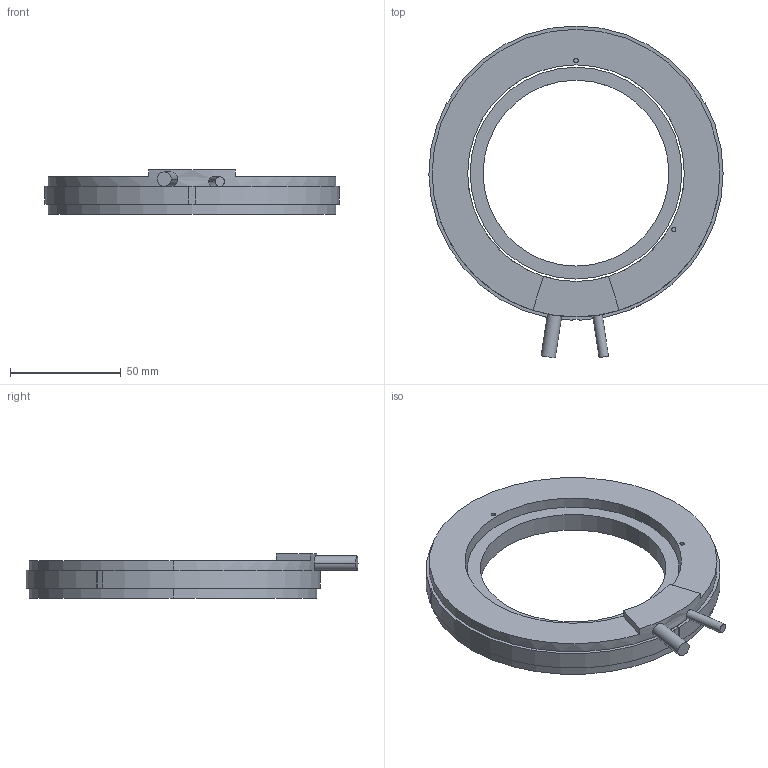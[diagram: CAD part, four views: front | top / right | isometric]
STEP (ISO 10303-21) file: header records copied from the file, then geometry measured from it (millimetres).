
FILE_DESCRIPTION (( 'STEP AP203' ), '1' );
FILE_NAME ('TM133-17 3D.STEP', '2024-01-12T02:50:05', ( '' ), ( '' ), 'SwSTEP 2.0', 'SolidWorks 2021', '' );
FILE_SCHEMA (( 'CONFIG_CONTROL_DESIGN' ));
Length unit declared in the file: millimetre
Products named in the file (1): TM133-17 3D
Bounding box: 133 x 150.04 x 20 mm (x, y, z)
Volume: 119368.9 mm3; surface area: 34125.3 mm2
Topology: 2 solids, 2 shells, 44 faces, 105 edges, 70 vertices
Faces by surface type: cylinder 22, plane 22
Entity records: 1492 total; most frequent: CARTESIAN_POINT 344, DIRECTION 235, ORIENTED_EDGE 210, EDGE_CURVE 105, AXIS2_PLACEMENT_3D 89, VERTEX_POINT 70, LINE 57, VECTOR 57
